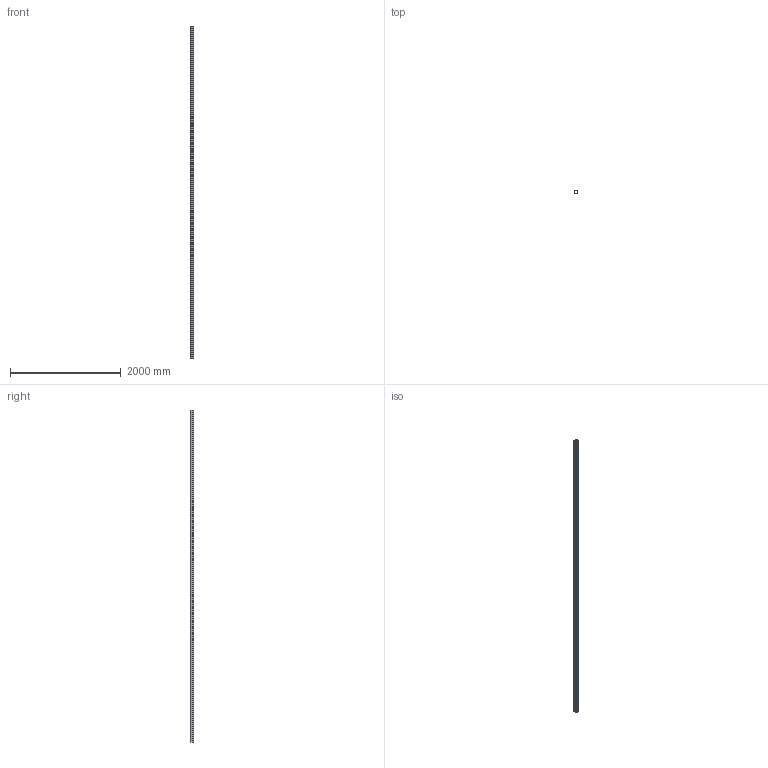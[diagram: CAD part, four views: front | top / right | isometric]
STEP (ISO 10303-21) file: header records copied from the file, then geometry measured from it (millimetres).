
FILE_DESCRIPTION(/* description */ ('Profilrohr Nr.3 - 6m Unverzinkt'),/* implementation_level */ '2;1');
FILE_NAME(/* name */ 'D:\Public\STP\011337015-TP.stp',/* time_stamp */ '2020-05-13T11:45:04+02:00',/* author */ ('O. Loukota'),/* organization */ (''),/* preprocessor_version */ 'ST-DEVELOPER v17.2',/* originating_system */ 'Autodesk Inventor 2019',/* authorisation */ '');
FILE_SCHEMA (('AUTOMOTIVE_DESIGN { 1 0 10303 214 3 1 1 }'));
Length unit declared in the file: millimetre
Products named in the file (1): 011337015
Bounding box: 65 x 60 x 6000 mm (x, y, z)
Volume: 4276076.8 mm3; surface area: 2420228.3 mm2
Topology: 1 solids, 1 shells, 70 faces, 180 edges, 120 vertices
Faces by surface type: plane 58, cylinder 12
Entity records: 2149 total; most frequent: CARTESIAN_POINT 371, ORIENTED_EDGE 360, DIRECTION 346, EDGE_CURVE 180, LINE 156, VECTOR 156, VERTEX_POINT 120, AXIS2_PLACEMENT_3D 95
